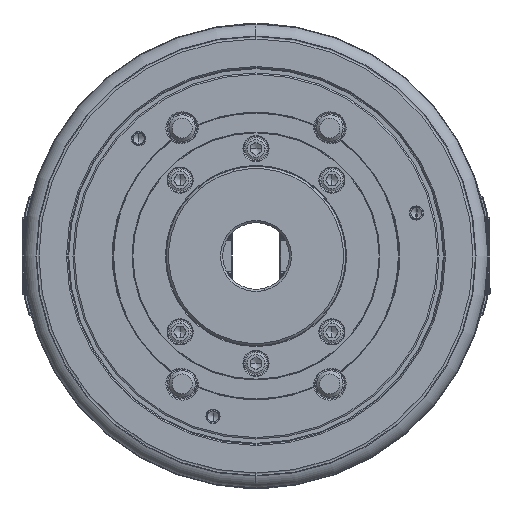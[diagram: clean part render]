
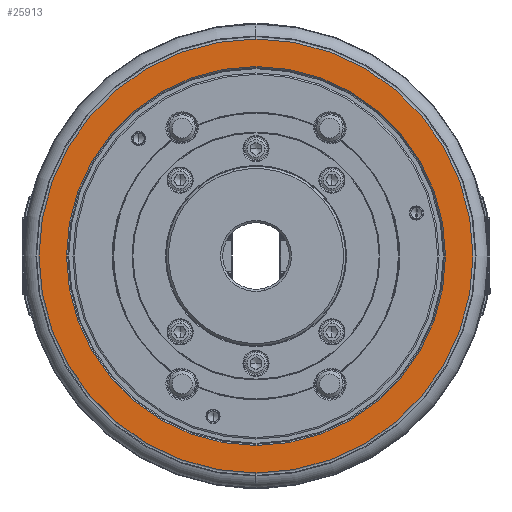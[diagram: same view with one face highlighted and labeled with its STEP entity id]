
A CAD part, left-side view. The second image highlights one B-rep face of the part: STEP entity #25913.
In plain terms, the highlighted planar face has unit normal (-1, 0, 0).
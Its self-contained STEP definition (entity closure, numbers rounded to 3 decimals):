
#2366 = ORIENTED_EDGE ( 'NONE', *, *, #46281, .F. ) ;
#4203 = EDGE_LOOP ( 'NONE', ( #29109, #2366 ) ) ;
#5246 = CARTESIAN_POINT ( 'NONE',  ( -91., 0., -85.6 ) ) ;
#5391 = DIRECTION ( 'NONE',  ( 0., 0., -1. ) ) ;
#10987 = VERTEX_POINT ( 'NONE', #5246 ) ;
#16119 = DIRECTION ( 'NONE',  ( 0., 0., 1. ) ) ;
#17556 = VERTEX_POINT ( 'NONE', #31625 ) ;
#18938 = DIRECTION ( 'NONE',  ( 1., 0., 0. ) ) ;
#21332 = DIRECTION ( 'NONE',  ( 0., 0., -1. ) ) ;
#21551 = EDGE_CURVE ( 'NONE', #60517, #60172, #58055, .T. ) ;
#24270 = CARTESIAN_POINT ( 'NONE',  ( -91., 0., 0. ) ) ;
#25913 = ADVANCED_FACE ( 'NONE', ( #41102, #53008 ), #47267, .T. ) ;
#26890 = DIRECTION ( 'NONE',  ( 1., 0., 0. ) ) ;
#27487 = CARTESIAN_POINT ( 'NONE',  ( -91., 0., 0. ) ) ;
#29109 = ORIENTED_EDGE ( 'NONE', *, *, #21551, .F. ) ;
#29963 = ORIENTED_EDGE ( 'NONE', *, *, #47804, .T. ) ;
#31625 = CARTESIAN_POINT ( 'NONE',  ( -91., 0., 85.6 ) ) ;
#31848 = AXIS2_PLACEMENT_3D ( 'NONE', #73903, #18938, #50093 ) ;
#32290 = CARTESIAN_POINT ( 'NONE',  ( -91., 0., 98. ) ) ;
#34254 = DIRECTION ( 'NONE',  ( 0., 0., -1. ) ) ;
#38335 = EDGE_CURVE ( 'NONE', #17556, #10987, #65462, .T. ) ;
#39494 = CIRCLE ( 'NONE', #69696, 85.6 ) ;
#41102 = FACE_OUTER_BOUND ( 'NONE', #4203, .T. ) ;
#41495 = DIRECTION ( 'NONE',  ( -1., 0., 0. ) ) ;
#41903 = CIRCLE ( 'NONE', #56311, 98. ) ;
#46281 = EDGE_CURVE ( 'NONE', #60172, #60517, #41903, .T. ) ;
#47267 = PLANE ( 'NONE',  #67618 ) ;
#47804 = EDGE_CURVE ( 'NONE', #10987, #17556, #39494, .T. ) ;
#50093 = DIRECTION ( 'NONE',  ( 0., 0., -1. ) ) ;
#53008 = FACE_BOUND ( 'NONE', #63156, .T. ) ;
#53700 = ORIENTED_EDGE ( 'NONE', *, *, #38335, .T. ) ;
#55175 = CARTESIAN_POINT ( 'NONE',  ( -91., 0., -98. ) ) ;
#56311 = AXIS2_PLACEMENT_3D ( 'NONE', #24270, #73096, #5391 ) ;
#58055 = CIRCLE ( 'NONE', #31848, 98. ) ;
#58222 = DIRECTION ( 'NONE',  ( 1., 0., 0. ) ) ;
#60172 = VERTEX_POINT ( 'NONE', #32290 ) ;
#60517 = VERTEX_POINT ( 'NONE', #55175 ) ;
#63156 = EDGE_LOOP ( 'NONE', ( #53700, #29963 ) ) ;
#65462 = CIRCLE ( 'NONE', #72053, 85.6 ) ;
#67618 = AXIS2_PLACEMENT_3D ( 'NONE', #78420, #41495, #16119 ) ;
#69696 = AXIS2_PLACEMENT_3D ( 'NONE', #27487, #58222, #21332 ) ;
#71600 = CARTESIAN_POINT ( 'NONE',  ( -91., 0., 0. ) ) ;
#72053 = AXIS2_PLACEMENT_3D ( 'NONE', #71600, #26890, #34254 ) ;
#73096 = DIRECTION ( 'NONE',  ( 1., 0., 0. ) ) ;
#73903 = CARTESIAN_POINT ( 'NONE',  ( -91., 0., 0. ) ) ;
#78420 = CARTESIAN_POINT ( 'NONE',  ( -91., 0., -85.6 ) ) ;
